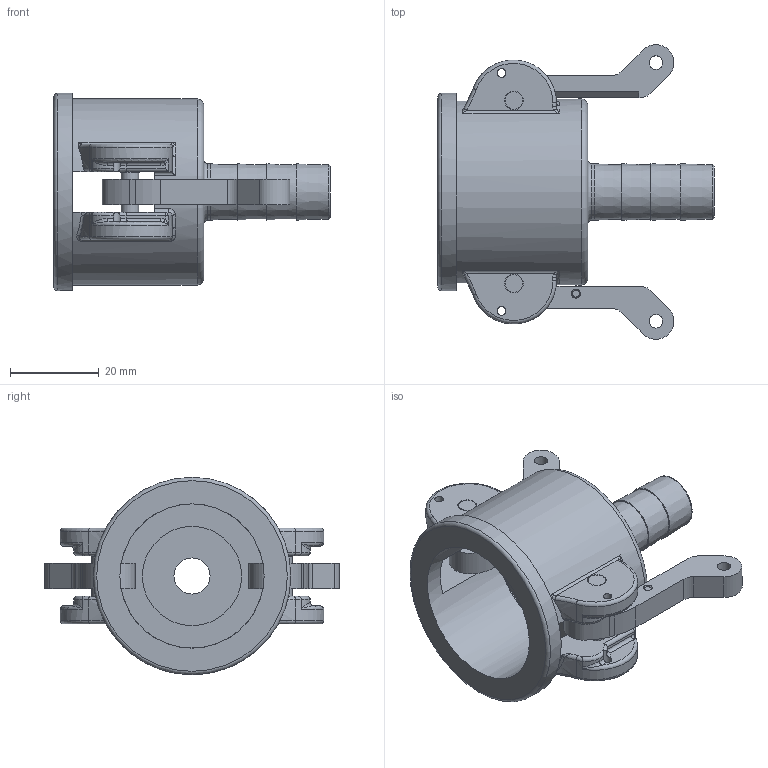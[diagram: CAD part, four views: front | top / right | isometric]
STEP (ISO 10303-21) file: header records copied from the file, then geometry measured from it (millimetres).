
FILE_DESCRIPTION(/* description */ ('Alibre Inc.'),/* implementation_level */ '2;1');
FILE_NAME(/* name */ 'export0',/* time_stamp */ '2015-12-30T14:33:50-05:00',/* author */ (''),/* organization */ (''),/* preprocessor_version */ 'ST-DEVELOPER v14',/* originating_system */ 'Alibre',/* authorisation */ '');
FILE_SCHEMA (('CONFIG_CONTROL_DESIGN'));
Length unit declared in the file: centimetre
Products named in the file (5): ID_1; ID_2; ID_3
Bounding box: 62.23 x 66.36 x 44.45 mm (x, y, z)
Volume: 32601.7 mm3; surface area: 19501.1 mm2
Topology: 6 solids, 6 shells, 227 faces, 576 edges, 357 vertices
Faces by surface type: cylinder 72, plane 70, torus 44, bspline 32, cone 8, sphere 1
Full cylindrical faces by diameter (mm): 1.981 x4, 3.048 x2, 3.962 x6, 4.216 x2, 4.242 x2, 8.128 x1, 12.7 x1, 22.352 x1, 32.512 x1, 35.052 x1, 35.814 x1, 41.91 x1, 44.45 x1
Entity records: 11433 total; most frequent: CARTESIAN_POINT 6652, ORIENTED_EDGE 926, DIRECTION 737, EDGE_CURVE 463, AXIS2_PLACEMENT_3D 345, VERTEX_POINT 303, EDGE_LOOP 258, FACE_BOUND 258
